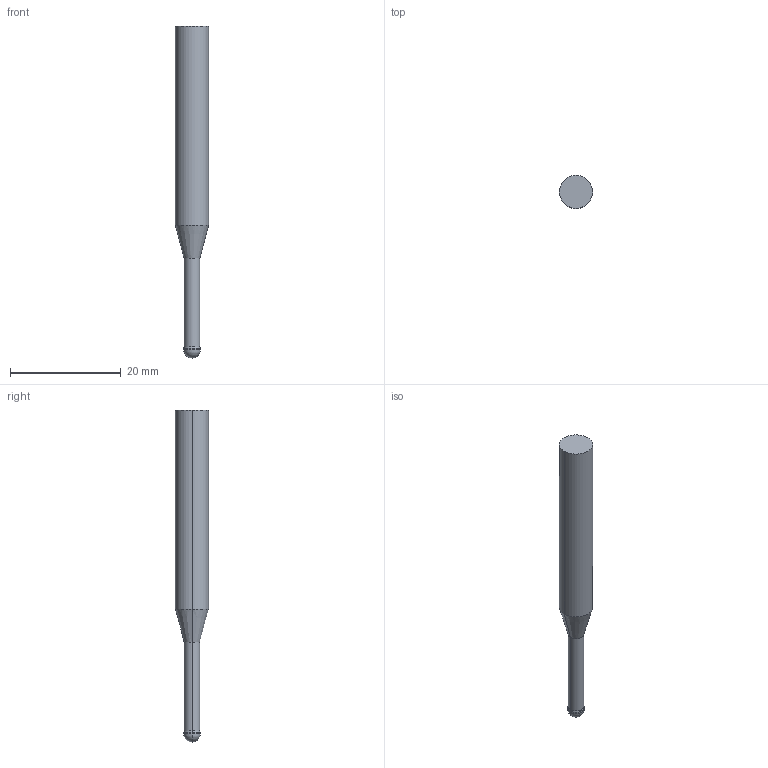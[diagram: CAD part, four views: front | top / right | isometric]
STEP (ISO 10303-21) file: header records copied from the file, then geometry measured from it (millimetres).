
FILE_DESCRIPTION(('STEP AP214'),'1');
FILE_NAME('cctmp_06257507-0790-43D9-85D0-66A4DC7B05FF_2020_10_07_07_19_08_0795..stp','2020-10-07T05:19:08',('Meusburger Georg GmbH & Co KG'),('CADClick - www.CADClick.com'),'Spatial InterOp 3D',' ','unknown authorization');
FILE_SCHEMA(('AUTOMOTIVE_DESIGN { 1 0 10303 214 1 1 1 1 }'));
Length unit declared in the file: millimetre
Products named in the file (1): WZF289967_3_18
Bounding box: 6 x 6 x 59.99 mm (x, y, z)
Volume: 1222.4 mm3; surface area: 952.6 mm2
Topology: 1 solids, 1 shells, 14 faces, 29 edges, 16 vertices
Faces by surface type: cylinder 6, sphere 4, cone 2, plane 2
Entity records: 498 total; most frequent: DIRECTION 76, CARTESIAN_POINT 58, ORIENTED_EDGE 54, AXIS2_PLACEMENT_3D 34, EDGE_CURVE 27, CIRCLE 19, VERTEX_POINT 16, STYLED_ITEM 15
